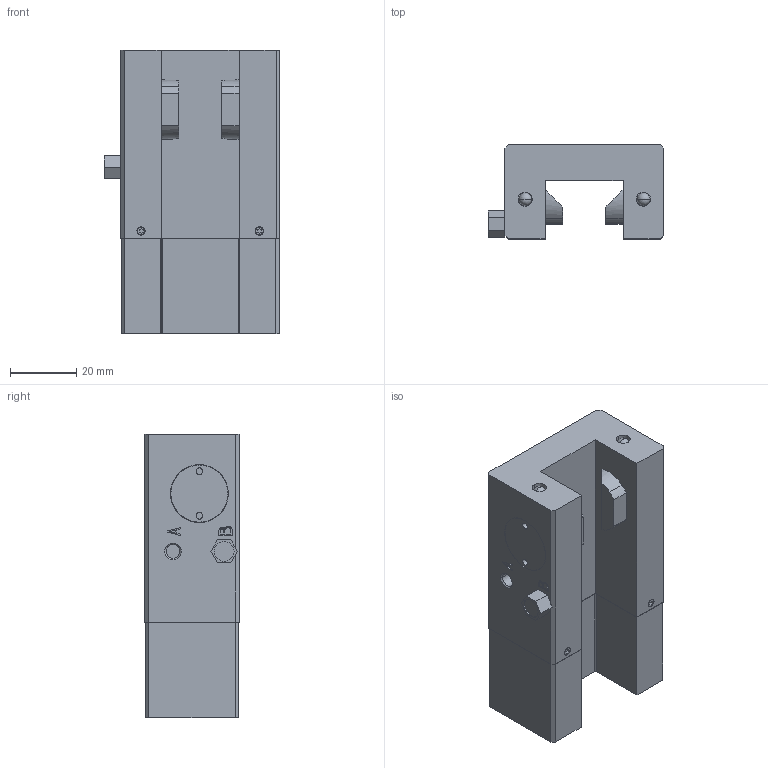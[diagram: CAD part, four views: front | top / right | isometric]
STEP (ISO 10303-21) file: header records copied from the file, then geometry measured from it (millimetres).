
FILE_DESCRIPTION( ( '' ), '1' );
FILE_NAME( 'E:/04 嬴檜蠱滌/0404 ZIMMER/040414 ZIMMER CAD download/LKPS/LKPS2505BS2---.stp', '2020-04-16T09:47:29', ( '' ), ( '' ), ' ', ' ', ' ' );
FILE_SCHEMA( ( 'automotive_design' ) );
Length unit declared in the file: millimetre
Products named in the file (1): 1
Bounding box: 53 x 28.5 x 85.9 mm (x, y, z)
Volume: 81341.5 mm3; surface area: 20152.2 mm2
Topology: 1 solids, 2 shells, 291 faces, 688 edges, 452 vertices
Faces by surface type: plane 185, cylinder 82, cone 16, sphere 4, torus 4
Entity records: 16380 total; most frequent: DIRECTION 1476, STYLED_ITEM 1428, PRESENTATION_STYLE_ASSIGNMENT 1428, CARTESIAN_POINT 1428, COLOUR_RGB 1428, ORIENTED_EDGE 1368, EDGE_CURVE 684, CURVE_STYLE 684
